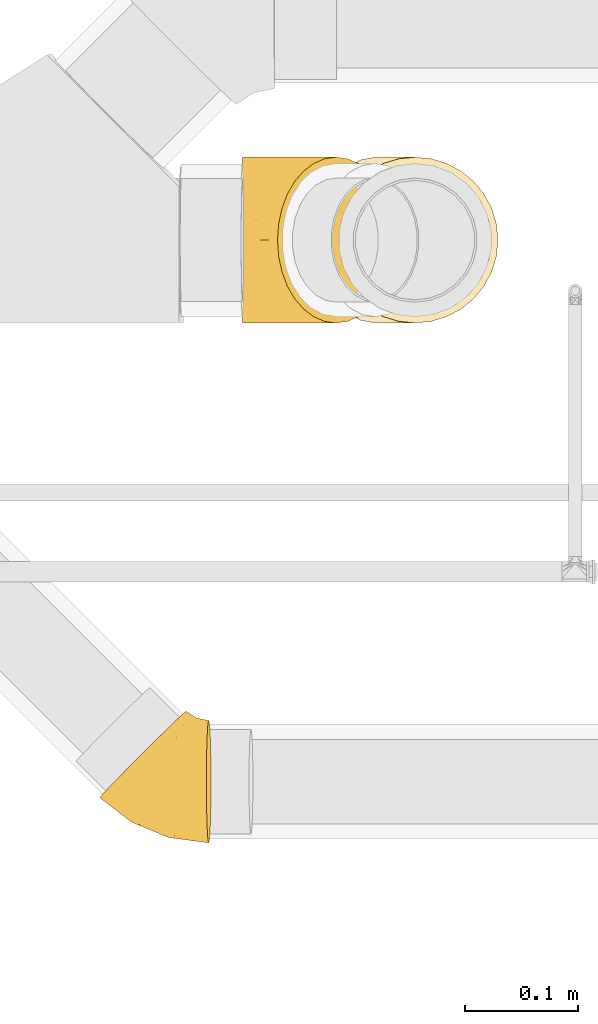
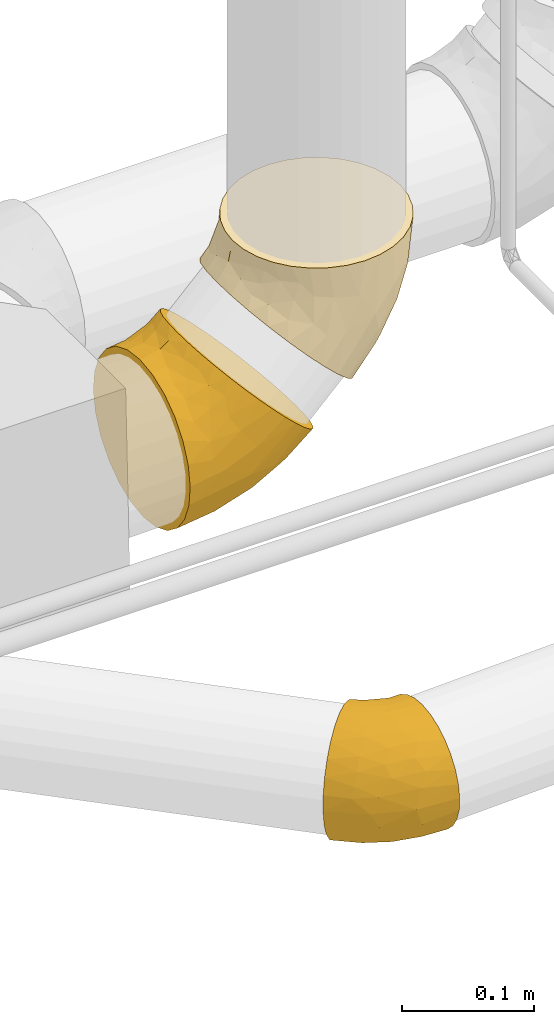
# One storey, part 23 of 156: 3 coverings.
"""IFC2X3 building model written with IfcOpenShell, lengths in millimetres."""

from ifc_helpers import new_model, entity, si_unit, converted_unit, derived_unit, direction, frame, origin_with_axes, place, context, subcontext, project, spatial, open_shell, surface_model, source, transform, mapped, element, save


model = new_model("IFC2X3")

# Units and contexts
model_context = context("Model", 3, precision=0.01, world=frame((0.0, 4.29681676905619e-09, 0.0)), true_north=direction((4.01073788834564e-13, 1.0)))
plan_context = context("Plan", 3, precision=0.01, world=frame((0.0, 4.29681676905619e-09, 0.0)), true_north=direction((4.01073788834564e-13, 1.0)))
body_context = subcontext(model_context, "Body", "Model", "MODEL_VIEW")
ifc_project = project(units=[converted_unit("PLANEANGLEUNIT", "DEGREE", entity("IfcPositiveLengthMeasure", 0.0174532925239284), si_unit("PLANEANGLEUNIT", "RADIAN"), dimensions=[0, 0, 0, 0, 0, 0, 0]), si_unit("AREAUNIT", "SQUARE_METRE"), si_unit("LENGTHUNIT", "METRE", prefix="MILLI"), si_unit("MASSUNIT", "GRAM", prefix="KILO"), si_unit("POWERUNIT", "WATT"), si_unit("PRESSUREUNIT", "PASCAL", prefix="KILO"), si_unit("FORCEUNIT", "NEWTON", prefix="KILO"), si_unit("ELECTRICVOLTAGEUNIT", "VOLT"), si_unit("ELECTRICCURRENTUNIT", "AMPERE"), si_unit("THERMODYNAMICTEMPERATUREUNIT", "DEGREE_CELSIUS"), si_unit("TIMEUNIT", "SECOND"), si_unit("VOLUMEUNIT", "CUBIC_METRE"), derived_unit("LINEARVELOCITYUNIT", [(si_unit("LENGTHUNIT", "METRE"), 1), (si_unit("TIMEUNIT", "SECOND"), -1)]), derived_unit("VOLUMETRICFLOWRATEUNIT", [(si_unit("VOLUMEUNIT", "CUBIC_METRE"), 1), (si_unit("TIMEUNIT", "SECOND"), -1)]), derived_unit("THERMALTRANSMITTANCEUNIT", [(si_unit("POWERUNIT", "WATT"), 1), (si_unit("THERMODYNAMICTEMPERATUREUNIT", "KELVIN"), -1), (si_unit("AREAUNIT", "SQUARE_METRE"), -1)]), derived_unit("SOUNDPRESSUREUNIT", [(si_unit("PRESSUREUNIT", "PASCAL"), 1)])], contexts=[model_context, plan_context])

# Site, building, storey
site_placement = place(None, frame((0.0, -4.29681676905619e-09, 0.0), z_axis=(0.0, 0.0, 1.0), x_axis=(1.0, 0.0, 0.0)))
site = spatial("IfcSite", under=ifc_project, at=site_placement, CompositionType="ELEMENT")
building_placement = place(site_placement, frame((0.0, 4.29681676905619e-09, 0.0), z_axis=(0.0, 0.0, 1.0), x_axis=(1.0, 0.0, 0.0)))
building = spatial("IfcBuilding", under=site, at=building_placement, Name="mc-building", CompositionType="ELEMENT")
storey_placement = place(building_placement, frame((0.0, 0.0, 205200.0), z_axis=(0.0, 0.0, 1.0), x_axis=(1.0, 0.0, 0.0)))
storey = spatial("IfcBuildingStorey", under=building, at=storey_placement, Name="Nivå D + 1,2 m", CompositionType="ELEMENT", Elevation=205200.0)

# Coverings
shared_shape_1 = source(origin_with_axes(), body_context, "Body", "SurfaceModel", [
    surface_model("IfcShellBasedSurfaceModel", [(-14.78677, 85.69643, 14.34271), (-11.89061, 82.67631, 28.13327), (25.19152, 44.00717, 72.0902), (-11.8956, 82.68152, -28.11586), (-15.76476, 86.71627, 0.0), (-7.18786, 77.7723, 40.8417), (15.64745, 53.9597, 67.90986), (6.85108, 63.13253, 61.11944), (-0.8595, 71.1731, 51.97971), (45.02364, 23.32628, -72.0902), (-7.19568, 77.78045, -40.82479), (6.83937, 63.14474, -61.10815), (-0.8697, 71.18374, -51.96498), (-14.78898, 85.69874, -14.32665), (15.6354, 53.97227, -67.90265), (25.1804, 44.01876, -72.08701), (35.10758, 33.66672, -73.5), (54.5677, 13.37375, -67.90986), (35.10758, 33.66672, 73.5), (45.03475, 23.31469, 72.08701), (54.57976, 13.36118, 67.90265), (71.08485, -3.85029, 51.96498), (63.37578, 4.18871, 61.10815), (77.41084, -10.447, 40.82479), (82.11075, -15.34807, 28.11586), (82.10576, -15.34286, -28.13327), (85.00414, -18.36529, 14.32665), (85.97992, -19.38283, 0.0), (71.07466, -3.83966, -51.97971), (63.36408, 4.20092, -61.11944), (85.00192, -18.36298, -14.34271), (77.40302, -10.43885, -40.8417), (-48.64145, 70.99555, -19.0232), (-48.64145, 63.65287, 36.75), (-48.64145, 73.5, 0.0), (-48.64145, 51.97235, -51.97235), (-48.64145, 63.65287, -36.75), (-48.64145, 36.75, -63.65287), (-48.64145, 19.0232, 70.99555), (-48.64145, 19.0232, -70.99555), (-48.64145, 51.97235, 51.97235), (-48.64145, 70.99555, 19.0232), (-48.64145, 36.75, 63.65287), (-48.64145, 0.0, 73.5), (-48.64145, 0.0, -73.5), (-48.64145, -19.0232, -70.99555), (-48.64145, -36.75, -63.65287), (-48.64145, -73.5, 0.0), (-48.64145, -63.65287, -36.75), (-48.64145, -51.97235, -51.97235), (-48.64145, -70.99555, -19.0232), (-48.64145, -36.75, 63.65287), (-48.64145, -19.0232, 70.99555), (-48.64145, -51.97235, 51.97235), (-48.64145, -63.65287, 36.75), (-48.64145, -70.99555, 19.0232), (-8.02496, -31.20071, 63.7811), (0.38583, -67.21949, 0.0), (-17.17792, -69.83544, 12.60091), (-11.12207, -55.20795, 43.61844), (-14.18338, -64.82606, 27.91208), (14.85343, -60.87767, 16.42011), (-18.049, -44.85259, 55.96145), (15.81378, -36.25968, 54.82288), (51.59393, -42.26922, 20.50168), (21.84858, -51.9822, 32.76445), (4.66992, -11.61685, 70.15178), (18.15204, -46.16359, 43.81324), (10.38933, 15.37629, 73.5), (-18.14119, 3.90716, 73.5), (29.92806, -15.56608, 63.76527), (45.07223, -19.30243, 55.90068), (44.7187, -31.44083, 45.45652), (51.44237, -36.19359, 33.63826), (46.24687, -48.78356, 0.0), (-39.78302, 75.21387, 0.0), (-28.25826, 16.1109, 72.12534), (-15.76342, 65.86954, 46.63532), (-7.48991, 58.95018, 56.88466), (-2.08851, 32.86294, 70.33875), (-26.99025, 30.68623, 67.90515), (-20.89977, 51.98643, 56.82324), (-35.73454, 45.84419, 58.31147), (-35.30476, 73.09495, 17.95521), (-22.69023, 77.48432, 21.34079), (-17.43312, 74.28275, 34.6544), (-27.39408, 68.99028, 34.6544), (-35.80037, 59.64075, 44.74396), (-38.30373, 67.06289, 32.17967), (-23.34468, 81.82201, 0.0), (-8.93818, 45.24063, 64.37637), (-30.9246, 76.92774, 0.0), (-38.30487, 67.0608, -32.18345), (-27.39824, 68.99856, -34.63712), (-35.79384, 59.64211, -44.74397), (-35.29607, 73.09994, -17.94538), (-16.79017, 19.42925, -72.045), (-27.00722, 30.68216, -67.90515), (-2.12021, 32.86526, -70.33364), (-8.94254, 45.25749, -64.36701), (-20.90319, 52.00221, -56.81019), (-7.49773, 58.96532, -56.87079), (-18.14119, 3.90716, -73.5), (-15.77004, 65.88079, -46.61941), (-17.43869, 74.29014, -34.63713), (-35.73122, 45.84477, -58.31147), (-22.69264, 77.48883, -21.32394), (10.38933, 15.37629, -73.5), (15.80154, -36.24883, -54.83598), (-8.03441, -31.18594, -63.79066), (29.91631, -15.55369, -63.77478), (4.66992, -11.61685, -70.15178), (-11.13952, -55.21126, -43.61897), (-18.06681, -44.84147, -55.9735), (-17.18397, -69.83693, -12.5981), (14.83436, -60.88139, -16.43217), (-14.17058, -64.81628, -27.9298), (44.70948, -31.43192, -45.47229), (17.30548, -45.20807, -45.38609), (45.06059, -19.29177, -55.91376), (21.8473, -51.97363, -32.78137), (51.59101, -42.26538, -20.51818), (56.58166, -32.74175, -33.7328)], [open_shell([[[0, 1, 2]], [[0, 3, 4]], [[2, 1, 5]], [[6, 2, 7]], [[8, 7, 2]], [[2, 5, 8]], [[0, 9, 10]], [[10, 3, 0]], [[11, 12, 10]], [[13, 4, 3]], [[14, 11, 15]], [[15, 11, 10]], [[10, 9, 15]], [[16, 15, 9]], [[17, 0, 2]], [[18, 19, 20]], [[18, 20, 21]], [[21, 20, 22]], [[21, 23, 24]], [[21, 24, 25]], [[21, 25, 2]], [[26, 27, 24]], [[28, 29, 17]], [[28, 17, 25]], [[17, 9, 0]], [[27, 30, 25]], [[31, 28, 25]], [[25, 17, 2]], [[24, 27, 25]], [[2, 18, 21]], [[32, 33, 34]], [[35, 32, 36]], [[33, 35, 37]], [[32, 35, 33]], [[38, 37, 39]], [[33, 38, 40]], [[33, 41, 34]], [[40, 38, 42]], [[37, 38, 33]], [[39, 43, 38]], [[39, 44, 43]], [[44, 45, 46]], [[47, 44, 46]], [[47, 46, 48]], [[48, 46, 49]], [[47, 48, 50]], [[43, 51, 52]], [[53, 51, 43]], [[54, 47, 55]], [[47, 54, 53]], [[44, 47, 53]], [[53, 43, 44]], [[52, 51, 56]], [[47, 57, 58]], [[59, 54, 60]], [[58, 57, 61]], [[62, 63, 56]], [[61, 64, 65]], [[54, 59, 53]], [[20, 19, 66]], [[67, 63, 59]], [[66, 68, 69]], [[22, 20, 70]], [[69, 43, 52]], [[69, 52, 66]], [[71, 72, 21]], [[70, 56, 63]], [[73, 65, 64]], [[64, 61, 74]], [[74, 26, 64]], [[71, 21, 22]], [[73, 72, 67]], [[73, 23, 72]], [[26, 74, 27]], [[61, 65, 60]], [[62, 59, 63]], [[58, 60, 55]], [[67, 59, 65]], [[51, 53, 62]], [[68, 19, 18]], [[70, 63, 71]], [[68, 66, 19]], [[70, 66, 56]], [[72, 71, 63]], [[72, 23, 21]], [[70, 71, 22]], [[52, 56, 66]], [[64, 26, 24]], [[74, 61, 57]], [[20, 66, 70]], [[59, 60, 65]], [[55, 60, 54]], [[51, 62, 56]], [[59, 62, 53]], [[60, 58, 61]], [[47, 58, 55]], [[64, 24, 73]], [[23, 73, 24]], [[73, 67, 65]], [[63, 67, 72]], [[75, 34, 41]], [[43, 69, 76]], [[8, 77, 78]], [[79, 80, 76]], [[78, 77, 81]], [[80, 81, 82]], [[75, 41, 83]], [[84, 85, 1]], [[84, 83, 86]], [[33, 40, 87]], [[87, 86, 88]], [[33, 87, 88]], [[0, 89, 84]], [[88, 41, 33]], [[69, 68, 79]], [[86, 83, 88]], [[5, 85, 77]], [[7, 90, 6]], [[2, 6, 79]], [[2, 68, 18]], [[87, 77, 86]], [[90, 7, 78]], [[80, 79, 90]], [[42, 38, 80]], [[5, 1, 85]], [[40, 42, 82]], [[91, 83, 84]], [[83, 91, 75]], [[76, 80, 38]], [[86, 85, 84]], [[1, 0, 84]], [[8, 5, 77]], [[82, 87, 40]], [[79, 68, 2]], [[77, 87, 81]], [[77, 85, 86]], [[41, 88, 83]], [[80, 82, 42]], [[87, 82, 81]], [[90, 78, 81]], [[8, 78, 7]], [[80, 90, 81]], [[6, 90, 79]], [[89, 0, 4]], [[89, 91, 84]], [[43, 76, 38]], [[79, 76, 69]], [[92, 93, 94]], [[32, 75, 95]], [[35, 36, 94]], [[89, 4, 13]], [[96, 97, 98]], [[99, 100, 101]], [[44, 39, 102]], [[103, 104, 10]], [[99, 97, 100]], [[32, 95, 92]], [[105, 37, 35]], [[39, 37, 97]], [[94, 103, 100]], [[95, 106, 93]], [[13, 3, 106]], [[32, 92, 36]], [[100, 103, 101]], [[98, 99, 14]], [[104, 106, 3]], [[104, 3, 10]], [[10, 12, 103]], [[92, 94, 36]], [[103, 93, 104]], [[101, 12, 11]], [[97, 96, 39]], [[14, 15, 98]], [[15, 16, 107]], [[95, 91, 106]], [[97, 37, 105]], [[107, 98, 15]], [[96, 107, 102]], [[107, 96, 98]], [[103, 94, 93]], [[13, 106, 89]], [[105, 94, 100]], [[106, 104, 93]], [[95, 93, 92]], [[94, 105, 35]], [[97, 105, 100]], [[12, 101, 103]], [[11, 14, 99]], [[99, 101, 11]], [[97, 99, 98]], [[106, 91, 89]], [[75, 32, 34]], [[75, 91, 95]], [[39, 96, 102]], [[108, 109, 110]], [[111, 110, 109]], [[112, 48, 49]], [[113, 46, 109]], [[107, 111, 102]], [[44, 102, 45]], [[45, 109, 46]], [[45, 111, 109]], [[50, 114, 47]], [[114, 115, 57]], [[48, 116, 50]], [[117, 118, 108]], [[29, 28, 119]], [[115, 116, 120]], [[74, 115, 121]], [[112, 120, 116]], [[9, 111, 107]], [[113, 112, 49]], [[45, 102, 111]], [[117, 119, 28]], [[28, 31, 117]], [[108, 113, 109]], [[118, 120, 112]], [[29, 119, 110]], [[111, 17, 110]], [[117, 108, 119]], [[121, 115, 120]], [[25, 121, 122]], [[30, 27, 74]], [[30, 74, 121]], [[110, 17, 29]], [[120, 117, 122]], [[115, 74, 57]], [[30, 121, 25]], [[31, 25, 122]], [[9, 107, 16]], [[110, 119, 108]], [[9, 17, 111]], [[116, 115, 114]], [[112, 116, 48]], [[113, 108, 118]], [[46, 113, 49]], [[47, 114, 57]], [[116, 114, 50]], [[120, 122, 121]], [[31, 122, 117]], [[120, 118, 117]], [[113, 118, 112]]])]),
])
covering_1_placement = place(storey_placement, frame((328435.16923, 462607.66, 4228.50586999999), z_axis=(0.0, -1.0, 0.0), x_axis=(0.999780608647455, 0.0, 0.020945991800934)))
element("IfcCovering", 1, at=covering_1_placement, inside=storey, Name="BI17T - Cellegummi 13 mm SPV fett", PredefinedType="INSULATION", context=body_context, shape_type="MappedRepresentation", body=[
    mapped(shared_shape_1, transform((0.0, 0.0, 0.0), scale=1.0)),
])
shared_shape_2 = source(origin_with_axes(), body_context, "Body", "SurfaceModel", [
    surface_model("IfcShellBasedSurfaceModel", [(78.65805, -7.77789, 40.82479), (64.31953, 6.56064, 61.10815), (72.19529, -1.31513, 51.96498), (78.65006, -7.7699, -40.8417), (72.18487, -1.30471, -51.97971), (64.30757, 6.57259, -61.11944), (-50.11984, 51.97235, 51.97235), (-50.11984, 19.0232, 70.99555), (-50.11984, 36.75, 63.65287), (-50.11984, -63.65287, 36.75), (-50.11984, -73.5, 0.0), (-50.11984, -70.99555, 19.0232), (55.3333, 15.54685, 67.90265), (45.58191, 25.29825, 72.08701), (4.83385, -11.66995, 69.93889), (-12.17477, -69.76274, 0.0), (5.47106, -63.34082, 16.85797), (24.31209, -58.69457, 0.0), (52.8356, -40.58128, 20.46241), (31.28542, -13.95595, 63.73529), (-11.70209, -55.05863, 43.55959), (-15.48663, -63.93403, 29.88743), (-50.11984, -19.0232, 70.99555), (-50.11984, -36.75, 63.65287), (-5.11298, -30.31246, 63.58684), (22.17475, -51.29307, 32.65824), (17.5441, -34.97729, 54.76439), (-17.48463, -44.85254, 55.63353), (18.60902, -45.081, 44.17956), (-18.80274, 4.12297, 73.5), (-50.11984, 0.0, 73.5), (-50.11984, -51.97235, 51.97235), (51.47749, -35.2588, 33.5744), (57.93857, -40.72084, 0.0), (86.41555, -15.53539, 14.32665), (46.47904, -17.36978, 55.87406), (46.39615, -29.49322, 45.42373), (87.41242, -16.53227, 0.0), (10.38016, 16.21093, 73.5), (35.44008, 35.44008, 73.5), (83.4596, -12.57944, 28.11586), (-41.03111, 75.30786, 0.0), (-50.11984, 73.5, 0.0), (-50.11984, 70.99555, 19.0232), (-29.5257, 16.17258, 72.12139), (-1.30471, 72.18487, 51.97971), (-16.17803, 66.51802, 46.63532), (-7.93405, 59.30084, 57.11817), (-1.68407, 33.88345, 70.33875), (-27.47038, 30.93139, 67.90515), (-15.53313, 86.41329, 14.34271), (-24.23732, 82.26407, 0.0), (-23.32895, 77.99618, 21.34079), (-21.65683, 52.28078, 56.82324), (-36.7774, 45.92029, 58.31147), (-35.68555, 73.38962, 18.04818), (-36.78684, 59.74575, 44.74396), (-27.98661, 69.36105, 34.6544), (-50.11984, 63.65287, 36.75), (-39.43278, 67.5041, 31.41719), (-12.57434, 83.4545, 28.13327), (-18.04026, 74.87686, 34.65411), (-7.7699, 78.65006, 40.8417), (6.57259, 64.30757, 61.11944), (-9.78753, 45.50133, 64.41145), (15.55917, 55.32099, 67.90986), (25.30961, 45.57056, 72.0902), (-31.94238, 77.11572, 0.0), (-16.53227, 87.41242, 0.0), (-39.43365, 67.50229, -31.42059), (-27.98963, 69.36981, -34.63712), (-36.7799, 59.74727, -44.74397), (-50.11984, 70.99555, -19.0232), (-35.67695, 73.39476, -18.03863), (-18.03545, 74.89115, -34.6373), (-7.77789, 78.65805, -40.82479), (-16.18434, 66.52948, -46.61941), (-15.53539, 86.41555, -14.32665), (-16.39465, 20.01782, -72.04848), (-27.48676, 30.92728, -67.90515), (-1.71519, 33.88543, -70.33364), (-9.79264, 45.51856, -64.40178), (-21.66049, 52.29649, -56.81019), (-7.94214, 59.31576, -57.10449), (-50.11984, 0.0, -73.5), (-50.11984, 19.0232, -70.99555), (-18.80274, 4.12297, -73.5), (-36.77418, 45.92087, -58.31147), (-50.11984, 36.75, -63.65287), (-50.11984, 51.97235, -51.97235), (-23.33104, 78.00091, -21.32394), (-12.57944, 83.4596, -28.11586), (15.54685, 55.3333, -67.90265), (-1.31513, 72.19529, -51.96498), (-50.11984, 63.65287, -36.75), (6.56064, 64.31953, -61.10815), (25.29825, 45.58191, -72.08701), (35.44008, 35.44008, -73.5), (10.38016, 16.21093, -73.5), (46.46727, -17.35932, -55.88715), (46.38681, -29.48448, -45.4395), (18.21757, -44.64753, -44.90164), (17.53181, -34.96665, -54.77751), (-50.11984, -19.0232, -70.99555), (31.27347, -13.94379, -63.74481), (45.57056, 25.30961, -72.0902), (55.32099, 15.55917, -67.90986), (4.83385, -11.66995, -69.93889), (-5.08832, -30.29523, -63.59234), (-17.50112, -44.84165, -55.64551), (-11.71909, -55.06193, -43.56013), (-50.11984, -51.97235, -51.97235), (-50.11984, -70.99555, -19.0232), (22.17334, -51.28457, -32.67513), (52.83268, -40.57748, -20.47889), (5.47018, -63.33879, -16.8673), (-50.11984, -63.65287, -36.75), (-15.49272, -63.93366, -29.89077), (-50.11984, -36.75, -63.65287), (58.20434, -30.61628, -33.66415), (83.4545, -12.57434, -28.13327), (86.41329, -15.53313, -14.34271)], [open_shell([[[0, 1, 2]], [[3, 4, 5]], [[6, 7, 8]], [[9, 10, 11]], [[12, 13, 14]], [[11, 10, 15]], [[16, 15, 17]], [[17, 18, 16]], [[1, 12, 19]], [[20, 9, 21]], [[22, 23, 24]], [[18, 25, 16]], [[26, 27, 28]], [[26, 24, 27]], [[22, 29, 30]], [[29, 22, 14]], [[9, 20, 31]], [[12, 14, 19]], [[19, 24, 26]], [[32, 25, 18]], [[17, 33, 18]], [[33, 34, 18]], [[35, 2, 1]], [[32, 36, 28]], [[32, 0, 36]], [[34, 33, 37]], [[27, 23, 31]], [[22, 24, 14]], [[35, 36, 2]], [[20, 28, 27]], [[38, 13, 39]], [[14, 38, 29]], [[25, 20, 21]], [[11, 16, 21]], [[13, 38, 14]], [[35, 19, 26]], [[36, 35, 26]], [[19, 35, 1]], [[0, 2, 36]], [[11, 15, 16]], [[28, 20, 25]], [[18, 34, 40]], [[23, 27, 24]], [[24, 19, 14]], [[20, 27, 31]], [[11, 21, 9]], [[25, 21, 16]], [[18, 40, 32]], [[0, 32, 40]], [[32, 28, 25]], [[26, 28, 36]], [[41, 42, 43]], [[30, 29, 44]], [[45, 46, 47]], [[48, 49, 44]], [[50, 51, 52]], [[49, 53, 54]], [[41, 43, 55]], [[54, 56, 6]], [[52, 55, 57]], [[56, 58, 6]], [[56, 57, 59]], [[58, 56, 59]], [[47, 46, 53]], [[59, 43, 58]], [[29, 38, 48]], [[49, 54, 8]], [[60, 61, 62]], [[63, 64, 65]], [[66, 65, 48]], [[66, 38, 39]], [[55, 67, 41]], [[64, 63, 47]], [[49, 48, 64]], [[8, 7, 49]], [[45, 62, 46]], [[6, 8, 54]], [[67, 55, 52]], [[56, 46, 57]], [[44, 49, 7]], [[46, 61, 57]], [[60, 50, 52]], [[52, 57, 61]], [[57, 55, 59]], [[48, 38, 66]], [[43, 59, 55]], [[46, 56, 53]], [[56, 54, 53]], [[62, 61, 46]], [[60, 52, 61]], [[64, 47, 53]], [[45, 47, 63]], [[49, 64, 53]], [[65, 64, 48]], [[51, 50, 68]], [[51, 67, 52]], [[30, 44, 7]], [[48, 44, 29]], [[69, 70, 71]], [[72, 41, 73]], [[74, 75, 76]], [[51, 68, 77]], [[78, 79, 80]], [[81, 82, 83]], [[84, 85, 86]], [[76, 71, 70]], [[81, 79, 82]], [[72, 73, 69]], [[87, 88, 89]], [[85, 88, 79]], [[71, 76, 82]], [[73, 90, 70]], [[77, 91, 90]], [[71, 87, 89]], [[82, 76, 83]], [[80, 81, 92]], [[91, 75, 74]], [[75, 93, 76]], [[94, 71, 89]], [[69, 71, 94]], [[74, 70, 90]], [[83, 93, 95]], [[79, 78, 85]], [[92, 96, 80]], [[96, 97, 98]], [[73, 67, 90]], [[79, 88, 87]], [[98, 80, 96]], [[78, 98, 86]], [[98, 78, 80]], [[72, 69, 94]], [[77, 90, 51]], [[73, 70, 69]], [[87, 71, 82]], [[79, 87, 82]], [[70, 74, 76]], [[91, 74, 90]], [[93, 83, 76]], [[95, 92, 81]], [[81, 83, 95]], [[79, 81, 80]], [[90, 67, 51]], [[41, 72, 42]], [[41, 67, 73]], [[85, 78, 86]], [[5, 4, 99]], [[100, 101, 102]], [[103, 84, 86]], [[104, 99, 102]], [[105, 106, 107]], [[108, 107, 104]], [[109, 110, 111]], [[107, 108, 103]], [[10, 112, 15]], [[109, 102, 101]], [[113, 114, 115]], [[17, 15, 115]], [[110, 116, 111]], [[110, 117, 116]], [[103, 108, 118]], [[109, 118, 108]], [[107, 86, 98]], [[109, 108, 102]], [[98, 97, 105]], [[113, 115, 117]], [[5, 99, 104]], [[15, 112, 115]], [[107, 106, 104]], [[107, 103, 86]], [[117, 112, 116]], [[4, 3, 100]], [[114, 119, 120]], [[102, 99, 100]], [[101, 113, 110]], [[17, 115, 114]], [[121, 37, 33]], [[17, 114, 33]], [[121, 33, 114]], [[113, 100, 119]], [[3, 120, 119]], [[121, 114, 120]], [[108, 104, 102]], [[107, 98, 105]], [[100, 99, 4]], [[104, 106, 5]], [[118, 109, 111]], [[113, 117, 110]], [[112, 117, 115]], [[113, 119, 114]], [[3, 119, 100]], [[113, 101, 100]], [[109, 101, 110]], [[45, 63, 65]], [[95, 93, 92]], [[97, 96, 92]], [[60, 62, 50]], [[68, 50, 62]], [[62, 45, 68]], [[65, 66, 45]], [[66, 68, 45]], [[93, 68, 1]], [[77, 68, 91]], [[93, 75, 91]], [[93, 91, 68]], [[93, 120, 92]], [[105, 97, 92]], [[66, 1, 68]], [[39, 13, 12]], [[1, 66, 12]], [[93, 1, 37]], [[37, 1, 0]], [[40, 34, 0]], [[37, 0, 34]], [[106, 105, 5]], [[3, 5, 105]], [[37, 121, 120]], [[3, 105, 120]], [[92, 120, 105]], [[37, 120, 93]], [[66, 39, 12]], [[72, 58, 42]], [[94, 58, 72]], [[89, 88, 85]], [[94, 89, 58]], [[89, 85, 7]], [[58, 7, 6]], [[58, 43, 42]], [[89, 7, 58]], [[85, 30, 7]], [[85, 84, 30]], [[84, 103, 118]], [[118, 116, 30]], [[30, 116, 22]], [[116, 118, 111]], [[22, 116, 112]], [[22, 31, 23]], [[31, 22, 10]], [[10, 9, 31]], [[22, 112, 10]], [[118, 30, 84]]])]),
])
covering_2_placement = place(storey_placement, frame((328539.54392, 462607.68521, 4332.88055999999), z_axis=(0.000168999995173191, -0.999999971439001, -0.000168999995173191), x_axis=(0.707106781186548, 0.0, 0.707106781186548)))
element("IfcCovering", 2, at=covering_2_placement, inside=storey, Name="BI17T - Cellegummi 13 mm SPV fett", PredefinedType="INSULATION", context=body_context, shape_type="MappedRepresentation", body=[
    mapped(shared_shape_2, transform((0.0, 0.0, 0.0), scale=1.0)),
])
shared_shape_3 = source(origin_with_axes(), body_context, "Body", "SurfaceModel", [
    surface_model("IfcShellBasedSurfaceModel", [(-5.82141, 54.14818, 33.83302), (-14.19477, 62.52276, 0.0), (-13.23227, 61.56012, 12.07667), (-10.3935, 58.72093, 23.54601), (7.52865, 40.79615, 48.88334), (0.24115, 48.08472, -42.40742), (0.25428, 48.07159, 42.42222), (61.56109, -13.24423, 12.05862), (-10.40025, 58.72768, -23.52619), (-5.83188, 54.15864, -33.81446), (-13.23518, 61.56303, -12.05862), (7.51464, 40.81017, -48.8738), (15.62409, 32.69952, -52.88872), (40.79726, 7.52265, -48.88334), (24.16296, 24.1594, -54.25), (15.63685, 32.68676, 52.89284), (58.72616, -10.40888, 23.52619), (24.16296, 24.1594, 54.25), (32.70182, 15.61928, 52.88872), (48.08476, 0.23408, 42.40742), (40.81127, 7.50864, 48.8738), (54.15779, -5.83984, 33.81446), (61.55818, -13.24132, -12.07667), (54.14732, -5.82937, -33.83302), (48.07163, 0.24721, -42.42222), (32.68906, 15.63205, -52.89284), (58.71941, -10.40213, -23.54601), (62.52068, -14.20396, 0.0), (-34.16907, 38.36054, -38.36054), (-34.16907, 54.25, 0.0), (-34.16907, 52.40148, -14.04093), (-34.16907, 46.98188, -27.125), (-34.16907, 27.125, -46.98188), (-34.16907, 52.40148, 14.04093), (-34.16907, -14.04093, 52.40148), (-34.16907, 14.04093, 52.40148), (-34.16907, 38.36054, 38.36054), (-34.16907, 46.98188, 27.125), (-34.16907, 27.125, 46.98188), (-34.16907, 0.0, 54.25), (-34.16907, 14.04093, -52.40148), (-34.16907, -52.40148, -14.04093), (-34.16907, 0.0, -54.25), (-34.16907, -14.04093, -52.40148), (-34.16907, -38.36054, -38.36054), (-34.16907, -27.125, -46.98188), (-34.16907, -46.98188, -27.125), (-34.16907, -52.40148, 14.04093), (-34.16907, -27.125, 46.98188), (-34.16907, -38.36054, 38.36054), (-34.16907, -46.98188, 27.125), (-34.16907, -54.25, 0.0), (30.17407, -20.95662, 37.36264), (1.2212, -49.59122, 0.0), (-12.81448, -50.8689, 13.40524), (-9.82846, -41.29668, 32.19109), (34.20013, -35.93232, 0.0), (7.79058, -45.6337, 14.30872), (-10.14285, -33.19182, 40.88282), (37.02917, -30.97846, 17.15936), (16.07504, -36.76958, 27.23079), (-2.60048, 6.27878, 54.25), (-10.55956, -7.4706, 53.22086), (10.86809, 2.27757, 53.41174), (-9.2879, -18.88773, 49.63491), (10.14485, -22.10541, 44.44731), (16.14053, -6.59875, 50.4993), (-10.45362, -47.31648, 22.27744), (9.43159, -32.52524, 36.08162), (39.20805, -23.47782, 28.10691), (30.20501, -9.62278, 45.27566), (-8.901, 46.29838, 38.36893), (-5.70746, 37.02395, 45.94169), (-1.32732, 18.83385, 53.15141), (-15.59198, 13.72466, 53.06861), (-24.13678, 21.48945, 50.15784), (-11.79247, 24.95832, 50.12046), (-19.45786, 59.0065, 0.0), (8.79287, 13.89066, 54.25), (-22.43355, 52.322, 20.76057), (-26.49433, 54.08689, 11.25988), (-28.92135, 50.58642, 20.67012), (-20.71443, 56.4172, 10.86231), (-25.79681, 44.88006, 31.79005), (-23.1568, 32.99487, 43.96347), (-14.77277, 51.49703, 28.87112), (-0.87727, 29.25435, 50.54551), (-17.21904, 55.40787, 19.71106), (-23.35922, 56.4, 0.0), (-27.96103, 55.48474, 0.0), (-16.94947, 41.84883, 38.36893), (-16.03941, 3.60587, 54.25), (-3.49583, 38.50899, -45.92952), (-11.34457, 44.72973, -38.35215), (-28.76414, 55.325, 0.0), (-25.93218, 52.63226, -17.00091), (-19.93935, 48.8247, -28.85176), (-21.27376, 40.29484, -38.3523), (-26.87128, 45.41885, -30.72943), (-13.25925, 52.51183, -28.85176), (-16.76505, 19.37735, -51.51033), (-2.60048, 6.27878, -54.25), (-18.38478, 3.13939, -54.25), (-0.77175, 27.23097, -51.20341), (-24.18015, 31.72058, -44.69516), (-17.9859, 55.7201, -17.90499), (8.79287, 13.89066, -54.25), (-13.2958, 33.09997, -45.92952), (-10.5885, -7.46446, -53.22349), (16.13157, -6.5823, -50.50665), (-9.28073, -18.86898, -49.64218), (30.16632, -20.94252, -37.37955), (39.20121, -23.46841, -28.1261), (16.06905, -36.76019, -27.2497), (37.02364, -30.97459, -17.17799), (-12.82801, -50.86717, -13.42031), (10.81846, 2.25389, -53.41239), (7.7642, -45.63843, -14.32227), (-10.13509, -33.18621, -40.88624), (-9.8419, -41.29896, -32.19156), (-10.46562, -47.31494, -22.28559), (10.1399, -22.08749, -44.4602), (30.19521, -9.6065, -45.28817), (9.43385, -32.52769, -36.07814)], [open_shell([[[0, 1, 2]], [[0, 2, 3]], [[4, 5, 1]], [[6, 4, 1]], [[0, 6, 1]], [[5, 4, 7]], [[8, 5, 9]], [[5, 8, 10]], [[11, 5, 12]], [[5, 10, 1]], [[13, 12, 5]], [[12, 13, 14]], [[4, 15, 7]], [[16, 17, 18]], [[19, 18, 20]], [[19, 21, 16]], [[7, 17, 16]], [[16, 18, 19]], [[5, 7, 22]], [[13, 23, 24]], [[25, 14, 13]], [[22, 23, 13]], [[26, 23, 22]], [[22, 13, 5]], [[7, 27, 22]], [[7, 15, 17]], [[28, 29, 30]], [[28, 30, 31]], [[29, 32, 33]], [[32, 29, 28]], [[32, 34, 35]], [[33, 36, 37]], [[36, 33, 35]], [[36, 35, 38]], [[33, 32, 35]], [[35, 34, 39]], [[32, 40, 34]], [[41, 42, 43]], [[44, 43, 45]], [[44, 46, 41]], [[44, 41, 43]], [[42, 41, 47]], [[48, 47, 49]], [[47, 48, 34]], [[49, 47, 50]], [[34, 42, 47]], [[41, 51, 47]], [[42, 34, 40]], [[19, 52, 21]], [[51, 53, 54]], [[50, 55, 49]], [[53, 56, 57]], [[58, 48, 49]], [[59, 60, 57]], [[61, 62, 63]], [[58, 64, 48]], [[62, 39, 34]], [[64, 65, 66]], [[54, 67, 47]], [[65, 58, 68]], [[55, 58, 49]], [[64, 62, 34]], [[59, 57, 56]], [[56, 7, 59]], [[16, 21, 69]], [[16, 69, 59]], [[66, 62, 64]], [[27, 7, 56]], [[70, 52, 19]], [[48, 64, 34]], [[60, 55, 67]], [[63, 17, 61]], [[20, 18, 66]], [[66, 65, 70]], [[59, 69, 60]], [[52, 69, 21]], [[20, 70, 19]], [[54, 57, 67]], [[66, 63, 62]], [[16, 59, 7]], [[39, 62, 61]], [[69, 52, 60]], [[67, 55, 50]], [[60, 52, 68]], [[68, 58, 55]], [[58, 65, 64]], [[60, 68, 55]], [[65, 68, 52]], [[66, 18, 63]], [[17, 63, 18]], [[47, 67, 50]], [[60, 67, 57]], [[66, 70, 20]], [[52, 70, 65]], [[51, 54, 47]], [[53, 57, 54]], [[71, 72, 6]], [[73, 74, 61]], [[35, 74, 75]], [[74, 73, 76]], [[2, 1, 77]], [[78, 15, 73]], [[79, 80, 81]], [[2, 77, 82]], [[83, 36, 84]], [[79, 81, 83]], [[83, 85, 79]], [[80, 79, 82]], [[72, 4, 6]], [[86, 15, 4]], [[0, 71, 6]], [[79, 87, 82]], [[84, 36, 38]], [[78, 73, 61]], [[73, 86, 76]], [[38, 75, 84]], [[80, 82, 88]], [[82, 87, 2]], [[80, 88, 89]], [[84, 72, 90]], [[77, 88, 82]], [[79, 85, 87]], [[85, 0, 3]], [[71, 85, 90]], [[76, 86, 72]], [[39, 91, 74]], [[78, 17, 15]], [[80, 29, 33]], [[74, 91, 61]], [[29, 80, 89]], [[81, 80, 33]], [[33, 37, 81]], [[83, 81, 37]], [[36, 83, 37]], [[83, 90, 85]], [[75, 74, 76]], [[39, 74, 35]], [[76, 72, 84]], [[38, 35, 75]], [[76, 84, 75]], [[84, 90, 83]], [[85, 71, 0]], [[72, 71, 90]], [[85, 3, 87]], [[2, 87, 3]], [[15, 86, 73]], [[4, 72, 86]], [[92, 93, 5]], [[30, 94, 95]], [[96, 97, 98]], [[93, 99, 9]], [[100, 101, 102]], [[11, 12, 103]], [[100, 32, 104]], [[77, 105, 88]], [[93, 97, 96]], [[95, 105, 96]], [[103, 12, 106]], [[102, 40, 100]], [[8, 105, 10]], [[77, 1, 10]], [[9, 5, 93]], [[9, 99, 8]], [[28, 97, 104]], [[31, 30, 95]], [[99, 105, 8]], [[96, 99, 93]], [[100, 107, 103]], [[92, 5, 11]], [[101, 103, 106]], [[95, 88, 105]], [[95, 96, 98]], [[92, 103, 107]], [[97, 93, 107]], [[40, 102, 42]], [[12, 14, 106]], [[105, 77, 10]], [[101, 100, 103]], [[32, 100, 40]], [[105, 99, 96]], [[103, 92, 11]], [[93, 92, 107]], [[104, 97, 107]], [[98, 28, 31]], [[100, 104, 107]], [[28, 104, 32]], [[28, 98, 97]], [[95, 98, 31]], [[94, 30, 29]], [[94, 88, 95]], [[108, 109, 110]], [[111, 112, 113]], [[101, 108, 42]], [[111, 24, 23]], [[114, 112, 26]], [[45, 43, 110]], [[41, 115, 51]], [[108, 101, 116]], [[114, 117, 113]], [[108, 110, 43]], [[118, 45, 110]], [[46, 119, 120]], [[42, 108, 43]], [[44, 119, 46]], [[13, 109, 25]], [[110, 121, 118]], [[109, 13, 122]], [[41, 120, 115]], [[122, 13, 24]], [[112, 111, 23]], [[123, 113, 119]], [[121, 122, 111]], [[117, 114, 56]], [[112, 23, 26]], [[22, 27, 56]], [[117, 56, 53]], [[22, 56, 114]], [[112, 114, 113]], [[110, 109, 121]], [[22, 114, 26]], [[116, 109, 108]], [[116, 14, 25]], [[120, 41, 46]], [[119, 118, 123]], [[118, 119, 44]], [[120, 113, 117]], [[45, 118, 44]], [[123, 121, 111]], [[121, 123, 118]], [[113, 123, 111]], [[14, 116, 101]], [[25, 109, 116]], [[113, 120, 119]], [[120, 117, 115]], [[111, 122, 24]], [[109, 122, 121]], [[117, 53, 115]], [[51, 115, 53]]])]),
])
covering_3_placement = place(storey_placement, frame((328322.45308, 462127.68806, 4228.44283000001), z_axis=(-0.037486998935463, -0.014004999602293, 0.999198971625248), x_axis=(0.707009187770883, -0.70700915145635, 0.0166152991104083)))
element("IfcCovering", 3, at=covering_3_placement, inside=storey, Name="BI17T - Cellegummi 13 mm SPV fett", PredefinedType="INSULATION", context=body_context, shape_type="MappedRepresentation", body=[
    mapped(shared_shape_3, transform((0.0, 0.0, 0.0), scale=1.0)),
])

save(model, "model.ifc")
